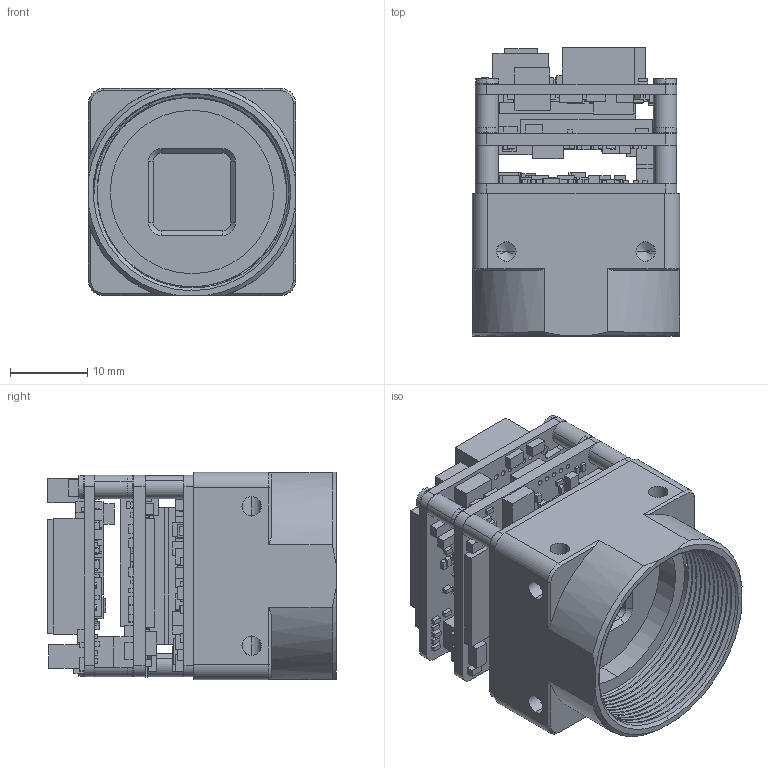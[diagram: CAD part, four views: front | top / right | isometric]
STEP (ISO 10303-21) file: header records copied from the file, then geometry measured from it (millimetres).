
FILE_DESCRIPTION (( 'STEP AP214' ), '1' );
FILE_NAME ('VMC.STEP', '2025-06-13T11:33:39', ( '' ), ( '' ), 'SwSTEP 2.0', 'SolidWorks 2022', '' );
FILE_SCHEMA (( 'AUTOMOTIVE_DESIGN' ));
Length unit declared in the file: millimetre
Products named in the file (8): GB_CROSS_SCREWS_TYPE135 M2X5-N_GB_CROSS_SCREWS_TYPE135 M2X5-N; MG26H-003-VM; PS178-003; ML26-005; PS304-002B; S180001-008; VMC; S240001-001_W
Assembly tree (17 placements, depth 2):
  VMC
    S240001-001_W
    PS178-003
    PS304-002B
    ML26-005
    MG26H-003-VM
    S180001-008  x6
    GB_CROSS_SCREWS_TYPE135 M2X5-N_GB_CROSS_SCREWS_TYPE135 M2X5-N  x6
Bounding box: 26.8 x 37.21 x 26.8 mm (x, y, z)
Volume: 12373.3 mm3; surface area: 19432.6 mm2
Topology: 396 solids, 396 shells, 2823 faces, 5964 edges, 3936 vertices
Faces by surface type: plane 2466, cylinder 259, cone 83, torus 12, bspline 3
Entity records: 100914 total; most frequent: CARTESIAN_POINT 13798, DIRECTION 10976, ORIENTED_EDGE 10924, EDGE_CURVE 5462, VECTOR 4988, LINE 4988, VERTEX_POINT 3631, AXIS2_PLACEMENT_3D 2994
